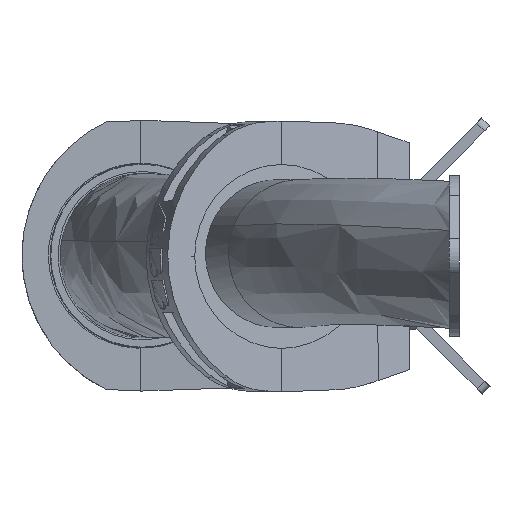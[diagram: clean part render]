
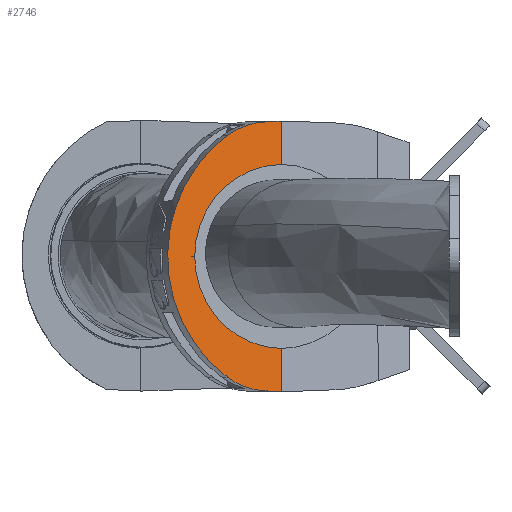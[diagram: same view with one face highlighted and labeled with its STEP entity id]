
A CAD part, left-side view. The second image highlights one B-rep face of the part: STEP entity #2746.
In plain terms, the highlighted planar face has unit normal (-0.956, -0.292, 0.001).
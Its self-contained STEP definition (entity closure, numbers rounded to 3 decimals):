
#236 = VERTEX_POINT ( 'NONE', #2080 ) ;
#460 = VECTOR ( 'NONE', #2476, 1000. ) ;
#677 = EDGE_CURVE ( 'NONE', #14696, #15364, #12774, .T. ) ;
#1524 = EDGE_CURVE ( 'NONE', #13896, #236, #7373, .T. ) ;
#1550 = DIRECTION ( 'NONE',  ( 0.956, 0.292, -0.001 ) ) ;
#1661 = ORIENTED_EDGE ( 'NONE', *, *, #677, .T. ) ;
#2080 = CARTESIAN_POINT ( 'NONE',  ( 779.161, 215.311, 1733.291 ) ) ;
#2416 = VERTEX_POINT ( 'NONE', #8960 ) ;
#2476 = DIRECTION ( 'NONE',  ( 0.292, -0.956, 0.037 ) ) ;
#2565 = LINE ( 'NONE', #9038, #8318 ) ;
#2746 = ADVANCED_FACE ( 'NONE', ( #12917 ), #6431, .F. ) ;
#2917 =( BOUNDED_CURVE ( )  B_SPLINE_CURVE ( 3, ( #6463, #13030, #6729, #14225 ),
 .UNSPECIFIED., .F., .T. ) 
 B_SPLINE_CURVE_WITH_KNOTS ( ( 4, 4 ),
 ( 0.958, 1.536 ),
 .UNSPECIFIED. ) 
 CURVE ( )  GEOMETRIC_REPRESENTATION_ITEM ( )  RATIONAL_B_SPLINE_CURVE ( ( 1., 0.972, 0.972, 1. ) ) 
 REPRESENTATION_ITEM ( '' )  );
#3270 = ORIENTED_EDGE ( 'NONE', *, *, #16456, .F. ) ;
#3506 = EDGE_CURVE ( 'NONE', #236, #2416, #7274, .T. ) ;
#3709 = DIRECTION ( 'NONE',  ( 0.292, -0.956, 0.002 ) ) ;
#3916 = VERTEX_POINT ( 'NONE', #5749 ) ;
#4061 = CARTESIAN_POINT ( 'NONE',  ( 779.161, 215.311, 1733.291 ) ) ;
#4173 = VECTOR ( 'NONE', #16417, 1000. ) ;
#4307 = CARTESIAN_POINT ( 'NONE',  ( 788.112, 186.016, 1725.782 ) ) ;
#5749 = CARTESIAN_POINT ( 'NONE',  ( 788.112, 186.279, 1849.91 ) ) ;
#6063 = ORIENTED_EDGE ( 'NONE', *, *, #3506, .F. ) ;
#6428 = CARTESIAN_POINT ( 'NONE',  ( 788.322, 185.486, 1799.608 ) ) ;
#6431 = PLANE ( 'NONE',  #6495 ) ;
#6463 = CARTESIAN_POINT ( 'NONE',  ( 779.161, 215.591, 1865.799 ) ) ;
#6495 = AXIS2_PLACEMENT_3D ( 'NONE', #10174, #15393, #3709 ) ;
#6729 = CARTESIAN_POINT ( 'NONE',  ( 783.199, 202.397, 1872.812 ) ) ;
#6813 = CARTESIAN_POINT ( 'NONE',  ( 781.031, 209.184, 1728.807 ) ) ;
#7181 = VECTOR ( 'NONE', #9023, 1000. ) ;
#7274 =( BOUNDED_CURVE ( )  B_SPLINE_CURVE ( 3, ( #4061, #9264, #14478, #7976 ),
 .UNSPECIFIED., .F., .T. ) 
 B_SPLINE_CURVE_WITH_KNOTS ( ( 4, 4 ),
 ( 5.325, 7.241 ),
 .UNSPECIFIED. ) 
 CURVE ( )  GEOMETRIC_REPRESENTATION_ITEM ( )  RATIONAL_B_SPLINE_CURVE ( ( 1., 0.717, 0.717, 1. ) ) 
 REPRESENTATION_ITEM ( '' )  );
#7373 =( BOUNDED_CURVE ( )  B_SPLINE_CURVE ( 3, ( #16370, #8687, #6813, #12949 ),
 .UNSPECIFIED., .F., .T. ) 
 B_SPLINE_CURVE_WITH_KNOTS ( ( 4, 4 ),
 ( 4.747, 5.325 ),
 .UNSPECIFIED. ) 
 CURVE ( )  GEOMETRIC_REPRESENTATION_ITEM ( )  RATIONAL_B_SPLINE_CURVE ( ( 1., 0.972, 0.972, 1. ) ) 
 REPRESENTATION_ITEM ( '' )  );
#7395 = DIRECTION ( 'NONE',  ( 0.292, -0.956, 0.002 ) ) ;
#7619 = CARTESIAN_POINT ( 'NONE',  ( 785.485, 194.923, 1873.1 ) ) ;
#7710 = AXIS2_PLACEMENT_3D ( 'NONE', #6428, #14120, #7395 ) ;
#7940 = EDGE_CURVE ( 'NONE', #14696, #15156, #11583, .T. ) ;
#7976 = CARTESIAN_POINT ( 'NONE',  ( 779.161, 215.591, 1865.799 ) ) ;
#8269 = EDGE_CURVE ( 'NONE', #9031, #3916, #11199, .T. ) ;
#8318 = VECTOR ( 'NONE', #10314, 1000. ) ;
#8349 = CARTESIAN_POINT ( 'NONE',  ( 788.112, 186.066, 1749.304 ) ) ;
#8371 = EDGE_CURVE ( 'NONE', #15364, #3916, #10973, .T. ) ;
#8382 = VERTEX_POINT ( 'NONE', #7619 ) ;
#8687 = CARTESIAN_POINT ( 'NONE',  ( 783.199, 202.088, 1726.334 ) ) ;
#8960 = CARTESIAN_POINT ( 'NONE',  ( 779.161, 215.591, 1865.799 ) ) ;
#9023 = DIRECTION ( 'NONE',  ( 0., -0.002, -1. ) ) ;
#9031 = VERTEX_POINT ( 'NONE', #15516 ) ;
#9038 = CARTESIAN_POINT ( 'NONE',  ( 788.551, 184.58, 1725.732 ) ) ;
#9264 = CARTESIAN_POINT ( 'NONE',  ( 764.417, 263.612, 1768.636 ) ) ;
#9289 = DIRECTION ( 'NONE',  ( 0.292, -0.956, 0.002 ) ) ;
#10174 = CARTESIAN_POINT ( 'NONE',  ( 772.022, 239.012, 1899.496 ) ) ;
#10314 = DIRECTION ( 'NONE',  ( -0.292, 0.956, 0.033 ) ) ;
#10843 = AXIS2_PLACEMENT_3D ( 'NONE', #14333, #1550, #9289 ) ;
#10973 = CIRCLE ( 'NONE', #7710, 50.308 ) ;
#11101 = ORIENTED_EDGE ( 'NONE', *, *, #1524, .F. ) ;
#11199 = LINE ( 'NONE', #12157, #4173 ) ;
#11261 = CARTESIAN_POINT ( 'NONE',  ( 788.551, 184.892, 1873.488 ) ) ;
#11583 = LINE ( 'NONE', #16784, #7181 ) ;
#12157 = CARTESIAN_POINT ( 'NONE',  ( 788.112, 186.328, 1873.432 ) ) ;
#12567 = LINE ( 'NONE', #11261, #460 ) ;
#12774 = CIRCLE ( 'NONE', #10843, 50.308 ) ;
#12917 = FACE_OUTER_BOUND ( 'NONE', #13759, .T. ) ;
#12949 = CARTESIAN_POINT ( 'NONE',  ( 779.161, 215.311, 1733.291 ) ) ;
#13021 = CARTESIAN_POINT ( 'NONE',  ( 785.485, 194.613, 1726.077 ) ) ;
#13030 = CARTESIAN_POINT ( 'NONE',  ( 781.031, 209.483, 1870.309 ) ) ;
#13759 = EDGE_LOOP ( 'NONE', ( #14096, #14928, #3270, #6063, #11101, #14392, #16259, #1661, #15812 ) ) ;
#13896 = VERTEX_POINT ( 'NONE', #13021 ) ;
#14096 = ORIENTED_EDGE ( 'NONE', *, *, #8269, .F. ) ;
#14120 = DIRECTION ( 'NONE',  ( 0.956, 0.292, -0.001 ) ) ;
#14225 = CARTESIAN_POINT ( 'NONE',  ( 785.485, 194.923, 1873.1 ) ) ;
#14333 = CARTESIAN_POINT ( 'NONE',  ( 788.322, 185.486, 1799.608 ) ) ;
#14392 = ORIENTED_EDGE ( 'NONE', *, *, #14546, .F. ) ;
#14478 = CARTESIAN_POINT ( 'NONE',  ( 764.417, 263.742, 1830.251 ) ) ;
#14546 = EDGE_CURVE ( 'NONE', #15156, #13896, #2565, .T. ) ;
#14696 = VERTEX_POINT ( 'NONE', #8349 ) ;
#14928 = ORIENTED_EDGE ( 'NONE', *, *, #15578, .F. ) ;
#15156 = VERTEX_POINT ( 'NONE', #4307 ) ;
#15364 = VERTEX_POINT ( 'NONE', #16586 ) ;
#15393 = DIRECTION ( 'NONE',  ( 0.956, 0.292, -0.001 ) ) ;
#15516 = CARTESIAN_POINT ( 'NONE',  ( 788.112, 186.328, 1873.432 ) ) ;
#15578 = EDGE_CURVE ( 'NONE', #8382, #9031, #12567, .T. ) ;
#15812 = ORIENTED_EDGE ( 'NONE', *, *, #8371, .T. ) ;
#16259 = ORIENTED_EDGE ( 'NONE', *, *, #7940, .F. ) ;
#16370 = CARTESIAN_POINT ( 'NONE',  ( 785.485, 194.613, 1726.077 ) ) ;
#16417 = DIRECTION ( 'NONE',  ( 0., -0.002, -1. ) ) ;
#16456 = EDGE_CURVE ( 'NONE', #2416, #8382, #2917, .T. ) ;
#16586 = CARTESIAN_POINT ( 'NONE',  ( 773.614, 233.596, 1799.507 ) ) ;
#16784 = CARTESIAN_POINT ( 'NONE',  ( 788.112, 186.328, 1873.432 ) ) ;
